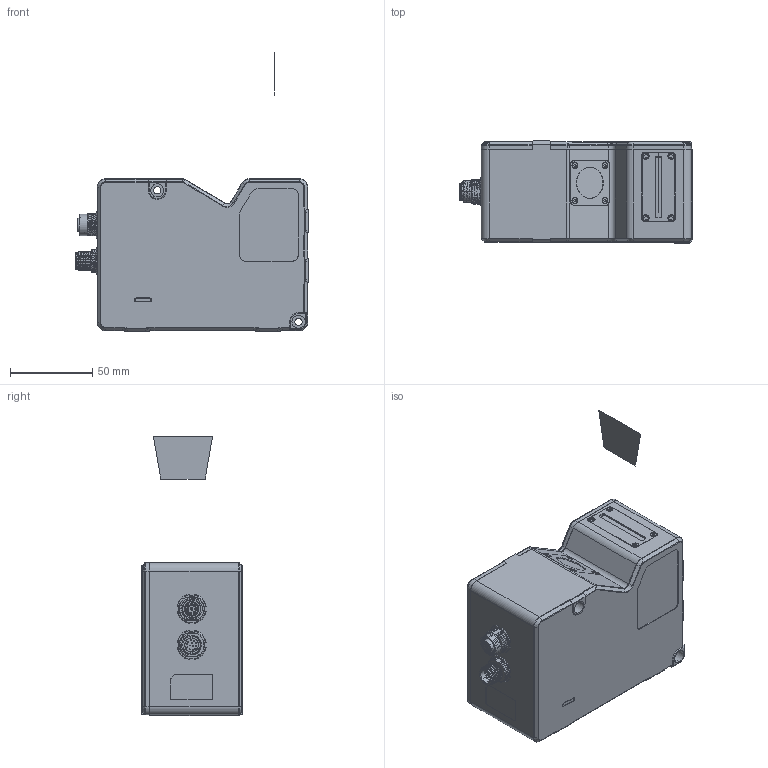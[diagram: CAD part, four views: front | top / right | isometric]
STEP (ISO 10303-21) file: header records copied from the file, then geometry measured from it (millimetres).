
FILE_DESCRIPTION((''),'2;1');
FILE_NAME('DP2060-3060-01P','2024-10-23T13:52:43',('liudeting'),(''),'CREO PARAMETRIC BY PTC INC, 2020044','CREO PARAMETRIC BY PTC INC, 2020044','');
FILE_SCHEMA(('CONFIG_CONTROL_DESIGN'));
Products named in the file (1): DP2060-3060-01P
Bounding box: 141.7 x 62 x 170 mm (x, y, z)
Surface area: 57877.1 mm2 (no closed solid volume)
Topology: 0 solids, 49 shells, 875 faces, 2767 edges, 1930 vertices
Faces by surface type: plane 281, cylinder 280, cone 163, torus 88, bspline 63
Entity records: 50029 total; most frequent: CARTESIAN_POINT 26275, DIRECTION 4820, ORIENTED_EDGE 4739, EDGE_CURVE 2749, VERTEX_POINT 1930, AXIS2_PLACEMENT_3D 1811, VECTOR 1198, LINE 1198
